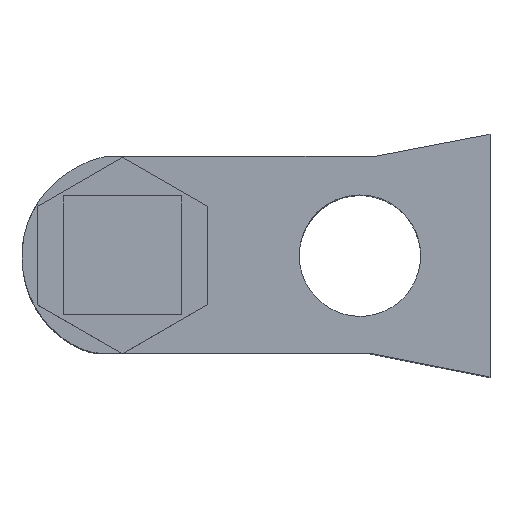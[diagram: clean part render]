
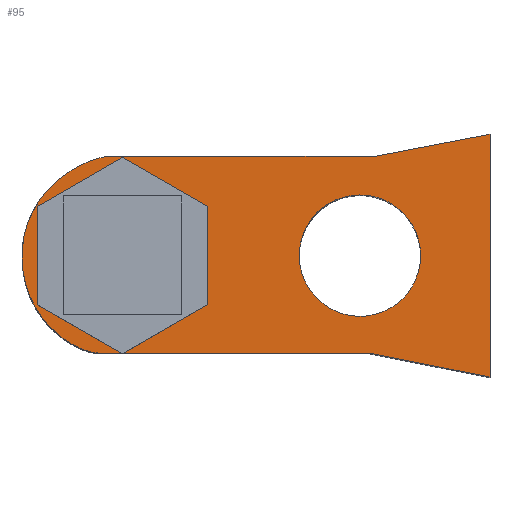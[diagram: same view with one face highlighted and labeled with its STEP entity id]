
A CAD part, top view. The second image highlights one B-rep face of the part: STEP entity #95.
In plain terms, the highlighted planar face has unit normal (0, 0, 1).
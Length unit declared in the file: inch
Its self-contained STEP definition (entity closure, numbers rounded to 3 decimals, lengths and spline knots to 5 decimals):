
#95=ADVANCED_FACE('',(#208,#209),#210,.T.);
#208=FACE_BOUND('',#359,.T.);
#209=FACE_OUTER_BOUND('',#360,.T.);
#210=PLANE('',#361);
#359=EDGE_LOOP('',(#599,#600,#601,#602));
#360=EDGE_LOOP('',(#603,#604,#605,#606,#607,#608,#609));
#361=AXIS2_PLACEMENT_3D('',#610,#611,#612);
#599=ORIENTED_EDGE('',*,*,#909,.T.);
#600=ORIENTED_EDGE('',*,*,#910,.T.);
#601=ORIENTED_EDGE('',*,*,#911,.T.);
#602=ORIENTED_EDGE('',*,*,#912,.T.);
#603=ORIENTED_EDGE('',*,*,#913,.F.);
#604=ORIENTED_EDGE('',*,*,#914,.F.);
#605=ORIENTED_EDGE('',*,*,#915,.F.);
#606=ORIENTED_EDGE('',*,*,#916,.F.);
#607=ORIENTED_EDGE('',*,*,#917,.F.);
#608=ORIENTED_EDGE('',*,*,#918,.F.);
#609=ORIENTED_EDGE('',*,*,#919,.F.);
#610=CARTESIAN_POINT('',(0.57435,0.3546,0.0));
#611=DIRECTION('',(0.0,0.0,1.0));
#612=DIRECTION('',(1.0,0.0,0.0));
#909=EDGE_CURVE('',#1073,#1074,#1075,.T.);
#910=EDGE_CURVE('',#1074,#1076,#1077,.T.);
#911=EDGE_CURVE('',#1076,#1078,#1079,.T.);
#912=EDGE_CURVE('',#1078,#1073,#1080,.T.);
#913=EDGE_CURVE('',#1081,#1082,#1083,.T.);
#914=EDGE_CURVE('',#1084,#1081,#1085,.T.);
#915=EDGE_CURVE('',#1086,#1084,#1087,.T.);
#916=EDGE_CURVE('',#1088,#1086,#1089,.T.);
#917=EDGE_CURVE('',#1090,#1088,#1091,.T.);
#918=EDGE_CURVE('',#1092,#1090,#1093,.T.);
#919=EDGE_CURVE('',#1082,#1092,#1094,.T.);
#1073=VERTEX_POINT('',#1331);
#1074=VERTEX_POINT('',#1332);
#1075=B_SPLINE_CURVE_WITH_KNOTS('',3,(#1333,#1334,#1335,#1336),.UNSPECIFIED.,.F.,.F.,(4,4),(0.0,1.0),.UNSPECIFIED.);
#1076=VERTEX_POINT('',#1337);
#1077=B_SPLINE_CURVE_WITH_KNOTS('',3,(#1338,#1339,#1340,#1341),.UNSPECIFIED.,.F.,.F.,(4,4),(0.0,1.0),.UNSPECIFIED.);
#1078=VERTEX_POINT('',#1342);
#1079=B_SPLINE_CURVE_WITH_KNOTS('',3,(#1343,#1344,#1345,#1346),.UNSPECIFIED.,.F.,.F.,(4,4),(0.0,1.0),.UNSPECIFIED.);
#1080=B_SPLINE_CURVE_WITH_KNOTS('',3,(#1347,#1348,#1349,#1350),.UNSPECIFIED.,.F.,.F.,(4,4),(0.0,1.0),.UNSPECIFIED.);
#1081=VERTEX_POINT('',#1351);
#1082=VERTEX_POINT('',#1352);
#1083=LINE('',#1353,#1354);
#1084=VERTEX_POINT('',#1355);
#1085=LINE('',#1356,#1357);
#1086=VERTEX_POINT('',#1358);
#1087=LINE('',#1359,#1360);
#1088=VERTEX_POINT('',#1361);
#1089=LINE('',#1362,#1363);
#1090=VERTEX_POINT('',#1364);
#1091=LINE('',#1365,#1366);
#1092=VERTEX_POINT('',#1367);
#1093=B_SPLINE_CURVE_WITH_KNOTS('',3,(#1368,#1369,#1370,#1371),.UNSPECIFIED.,.F.,.F.,(4,4),(0.0,1.0),.UNSPECIFIED.);
#1094=B_SPLINE_CURVE_WITH_KNOTS('',3,(#1372,#1373,#1374,#1375),.UNSPECIFIED.,.F.,.F.,(4,4),(0.0,1.0),.UNSPECIFIED.);
#1331=CARTESIAN_POINT('',(0.63637,0.3543,0.0));
#1332=CARTESIAN_POINT('',(0.85512,0.57305,0.0));
#1333=CARTESIAN_POINT('',(0.63637,0.3543,0.));
#1334=CARTESIAN_POINT('',(0.63637,0.47511,0.));
#1335=CARTESIAN_POINT('',(0.73431,0.57305,0.));
#1336=CARTESIAN_POINT('',(0.85512,0.57305,0.));
#1337=CARTESIAN_POINT('',(1.07387,0.3543,0.0));
#1338=CARTESIAN_POINT('',(0.85512,0.57305,0.));
#1339=CARTESIAN_POINT('',(0.97593,0.57305,0.));
#1340=CARTESIAN_POINT('',(1.07387,0.47511,0.));
#1341=CARTESIAN_POINT('',(1.07387,0.3543,0.));
#1342=CARTESIAN_POINT('',(0.85512,0.13555,0.0));
#1343=CARTESIAN_POINT('',(1.07387,0.3543,0.));
#1344=CARTESIAN_POINT('',(1.07387,0.23349,0.));
#1345=CARTESIAN_POINT('',(0.97593,0.13555,0.));
#1346=CARTESIAN_POINT('',(0.85512,0.13555,0.));
#1347=CARTESIAN_POINT('',(0.85512,0.13555,0.));
#1348=CARTESIAN_POINT('',(0.73431,0.13555,0.));
#1349=CARTESIAN_POINT('',(0.63637,0.23349,0.));
#1350=CARTESIAN_POINT('',(0.63637,0.3543,0.));
#1351=CARTESIAN_POINT('',(0.89048,0.00254,0.0));
#1352=CARTESIAN_POINT('',(-0.08368,0.00258,0.0));
#1353=CARTESIAN_POINT('',(0.89048,0.00254,0.0));
#1354=VECTOR('',#1670,1.0);
#1355=CARTESIAN_POINT('',(1.3242,-0.08318,0.0));
#1356=CARTESIAN_POINT('',(1.3242,-0.08318,0.0));
#1357=VECTOR('',#1671,1.0);
#1358=CARTESIAN_POINT('',(1.3242,0.79179,0.0));
#1359=CARTESIAN_POINT('',(1.3242,0.79179,0.0));
#1360=VECTOR('',#1672,1.0);
#1361=CARTESIAN_POINT('',(0.91351,0.71323,0.0));
#1362=CARTESIAN_POINT('',(0.91351,0.71323,0.0));
#1363=VECTOR('',#1673,1.0);
#1364=CARTESIAN_POINT('',(-0.03637,0.71326,0.0));
#1365=CARTESIAN_POINT('',(-0.03637,0.71326,0.0));
#1366=VECTOR('',#1674,1.0);
#1367=CARTESIAN_POINT('',(-0.36342,0.35394,0.0));
#1368=CARTESIAN_POINT('',(-0.36342,0.35394,0.0));
#1369=CARTESIAN_POINT('',(-0.36342,0.58872,0.0));
#1370=CARTESIAN_POINT('',(-0.14202,0.71326,0.0));
#1371=CARTESIAN_POINT('',(-0.03637,0.71326,0.0));
#1372=CARTESIAN_POINT('',(-0.08368,0.00258,0.0));
#1373=CARTESIAN_POINT('',(-0.16682,0.00258,0.0));
#1374=CARTESIAN_POINT('',(-0.36342,0.11736,0.0));
#1375=CARTESIAN_POINT('',(-0.36342,0.35394,0.0));
#1670=DIRECTION('',(-1.,0.,0.0));
#1671=DIRECTION('',(-0.981,0.194,0.0));
#1672=DIRECTION('',(0.0,-1.0,0.0));
#1673=DIRECTION('',(0.982,0.188,0.0));
#1674=DIRECTION('',(1.,0.,0.0));
